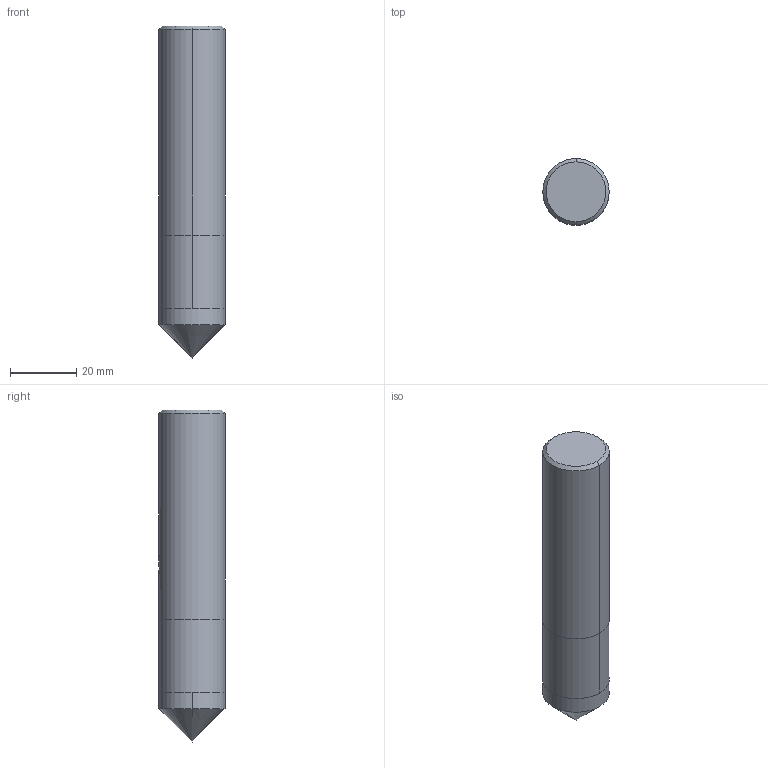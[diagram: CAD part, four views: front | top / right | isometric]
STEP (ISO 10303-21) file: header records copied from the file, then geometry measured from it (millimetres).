
FILE_DESCRIPTION(('no description'),'unknown implementation level');
FILE_NAME('solid37UKOGWrdYGHphuGPUB68d_VEt0_1.STP',' ',('CIMSOURCE GmbH'),('CADClick - KiM GmbH - www.kimweb.de'),'unknown preprocess','ACIS','unknown authorization');
FILE_SCHEMA(('automotive_design'));
Length unit declared in the file: millimetre
Products named in the file (2): NOCUT; CUT
Bounding box: 20 x 20 x 100 mm (x, y, z)
Volume: 29288.4 mm3; surface area: 7007 mm2
Topology: 2 solids, 2 shells, 28 faces, 67 edges, 41 vertices
Faces by surface type: cylinder 14, plane 8, cone 6
Entity records: 1963 total; most frequent: CARTESIAN_POINT 520, DIRECTION 139, STYLED_ITEM 136, PRESENTATION_STYLE_ASSIGNMENT 136, COLOUR_RGB 136, ORIENTED_EDGE 130, EDGE_CURVE 65, CURVE_STYLE 65
